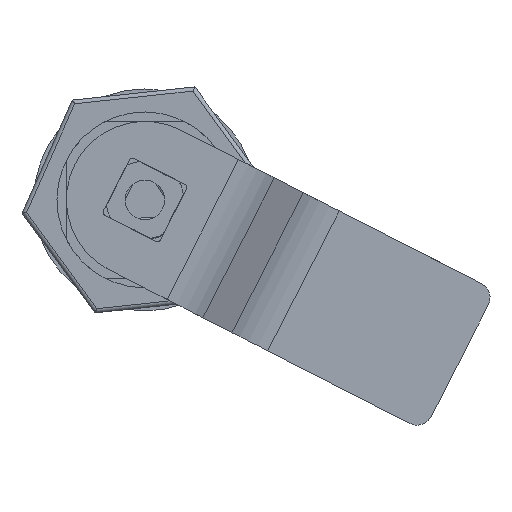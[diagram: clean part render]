
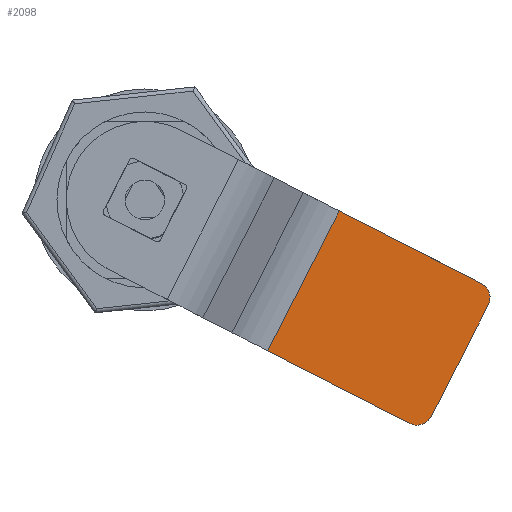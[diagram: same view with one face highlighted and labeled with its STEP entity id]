
A CAD part, front view. The second image highlights one B-rep face of the part: STEP entity #2098.
In plain terms, the highlighted planar face has unit normal (0, -1, 0).
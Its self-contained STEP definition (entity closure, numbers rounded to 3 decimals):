
#20 = CARTESIAN_POINT ( 'NONE',  ( 679.06, 802.19, 1289.217 ) ) ;
#208 = DIRECTION ( 'NONE',  ( 0., -1., 0. ) ) ;
#269 = EDGE_LOOP ( 'NONE', ( #2042, #1133, #3044, #2515, #576, #2924 ) ) ;
#279 = DIRECTION ( 'NONE',  ( 0., -1., 0. ) ) ;
#285 = CARTESIAN_POINT ( 'NONE',  ( 652.12, 802.19, 1280.739 ) ) ;
#300 = DIRECTION ( 'NONE',  ( 0.891, 0., -0.455 ) ) ;
#373 = CARTESIAN_POINT ( 'NONE',  ( 671.839, 802.19, 1270.673 ) ) ;
#381 = LINE ( 'NONE', #2812, #2949 ) ;
#430 = EDGE_CURVE ( 'NONE', #3374, #1781, #2204, .T. ) ;
#518 = FACE_OUTER_BOUND ( 'NONE', #269, .T. ) ;
#529 = EDGE_CURVE ( 'NONE', #665, #3374, #381, .T. ) ;
#560 = LINE ( 'NONE', #373, #1931 ) ;
#568 = CIRCLE ( 'NONE', #2527, 2. ) ;
#576 = ORIENTED_EDGE ( 'NONE', *, *, #2875, .T. ) ;
#665 = VERTEX_POINT ( 'NONE', #20 ) ;
#792 = EDGE_CURVE ( 'NONE', #1636, #1153, #954, .T. ) ;
#800 = DIRECTION ( 'NONE',  ( 0.891, 0., -0.455 ) ) ;
#899 = AXIS2_PLACEMENT_3D ( 'NONE', #2691, #279, #300 ) ;
#954 = CIRCLE ( 'NONE', #899, 2. ) ;
#1133 = ORIENTED_EDGE ( 'NONE', *, *, #430, .T. ) ;
#1153 = VERTEX_POINT ( 'NONE', #2239 ) ;
#1234 = VECTOR ( 'NONE', #2162, 1000. ) ;
#1266 = DIRECTION ( 'NONE',  ( 0.891, 0., -0.455 ) ) ;
#1303 = DIRECTION ( 'NONE',  ( 0., 1., 0. ) ) ;
#1456 = DIRECTION ( 'NONE',  ( 0.455, 0., 0.891 ) ) ;
#1636 = VERTEX_POINT ( 'NONE', #2756 ) ;
#1719 = VERTEX_POINT ( 'NONE', #2986 ) ;
#1753 = DIRECTION ( 'NONE',  ( -0.891, 0., 0.455 ) ) ;
#1781 = VERTEX_POINT ( 'NONE', #3086 ) ;
#1931 = VECTOR ( 'NONE', #1456, 1000. ) ;
#2042 = ORIENTED_EDGE ( 'NONE', *, *, #529, .T. ) ;
#2055 = EDGE_CURVE ( 'NONE', #1719, #665, #568, .T. ) ;
#2061 = CARTESIAN_POINT ( 'NONE',  ( 678.151, 802.19, 1287.436 ) ) ;
#2098 = ADVANCED_FACE ( 'NONE', ( #518 ), #2645, .F. ) ;
#2162 = DIRECTION ( 'NONE',  ( -0.891, 0., 0.455 ) ) ;
#2164 = EDGE_CURVE ( 'NONE', #1636, #1781, #2962, .T. ) ;
#2204 = LINE ( 'NONE', #285, #2450 ) ;
#2239 = CARTESIAN_POINT ( 'NONE',  ( 672.748, 802.19, 1272.454 ) ) ;
#2450 = VECTOR ( 'NONE', #2978, 1000. ) ;
#2515 = ORIENTED_EDGE ( 'NONE', *, *, #792, .T. ) ;
#2527 = AXIS2_PLACEMENT_3D ( 'NONE', #2061, #208, #1266 ) ;
#2568 = AXIS2_PLACEMENT_3D ( 'NONE', #2596, #1303, #800 ) ;
#2596 = CARTESIAN_POINT ( 'NONE',  ( 649.572, 802.19, 1282.04 ) ) ;
#2645 = PLANE ( 'NONE',  #2568 ) ;
#2691 = CARTESIAN_POINT ( 'NONE',  ( 670.967, 802.19, 1273.363 ) ) ;
#2756 = CARTESIAN_POINT ( 'NONE',  ( 670.057, 802.19, 1271.582 ) ) ;
#2812 = CARTESIAN_POINT ( 'NONE',  ( 658.575, 802.19, 1299.675 ) ) ;
#2875 = EDGE_CURVE ( 'NONE', #1153, #1719, #560, .T. ) ;
#2924 = ORIENTED_EDGE ( 'NONE', *, *, #2055, .T. ) ;
#2949 = VECTOR ( 'NONE', #1753, 1000. ) ;
#2962 = LINE ( 'NONE', #3235, #1234 ) ;
#2978 = DIRECTION ( 'NONE',  ( -0.455, 0., -0.891 ) ) ;
#2986 = CARTESIAN_POINT ( 'NONE',  ( 679.932, 802.19, 1286.526 ) ) ;
#3044 = ORIENTED_EDGE ( 'NONE', *, *, #2164, .F. ) ;
#3086 = CARTESIAN_POINT ( 'NONE',  ( 652.12, 802.19, 1280.739 ) ) ;
#3235 = CARTESIAN_POINT ( 'NONE',  ( 649.572, 802.19, 1282.04 ) ) ;
#3374 = VERTEX_POINT ( 'NONE', #3421 ) ;
#3421 = CARTESIAN_POINT ( 'NONE',  ( 661.123, 802.19, 1298.374 ) ) ;
